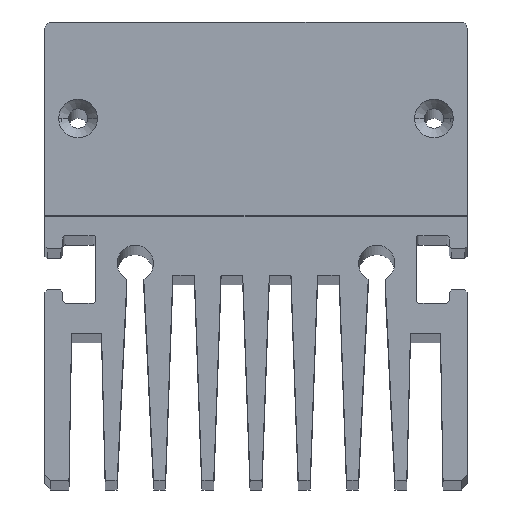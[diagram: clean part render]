
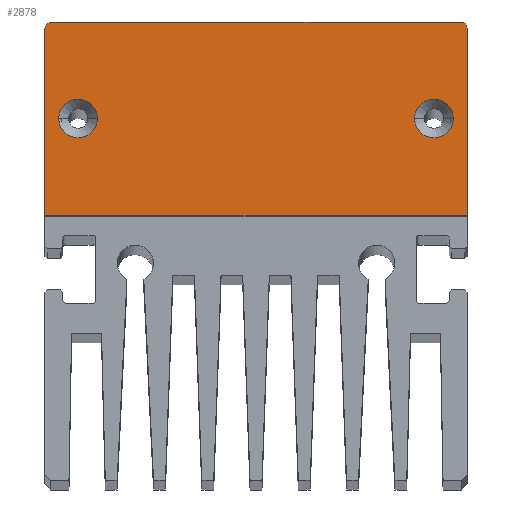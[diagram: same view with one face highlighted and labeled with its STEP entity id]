
A CAD part, top view. The second image highlights one B-rep face of the part: STEP entity #2878.
In plain terms, the highlighted planar face has unit normal (0, 0, 1).
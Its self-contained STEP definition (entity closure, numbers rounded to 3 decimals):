
#628=DIRECTION('',(1.,0.,0.));
#629=VECTOR('',#628,35.001);
#630=CARTESIAN_POINT('',(-17.5,2.8,227.));
#631=LINE('',#630,#629);
#632=CARTESIAN_POINT('',(-17.,18.3,227.));
#633=DIRECTION('',(0.,0.,1.));
#634=DIRECTION('',(0.,1.,0.));
#635=AXIS2_PLACEMENT_3D('',#632,#633,#634);
#637=CARTESIAN_POINT('',(17.497,18.3,227.));
#638=CARTESIAN_POINT('',(17.497,18.395,227.));
#639=CARTESIAN_POINT('',(17.449,18.558,227.));
#640=CARTESIAN_POINT('',(17.253,18.754,227.));
#641=CARTESIAN_POINT('',(17.092,18.8,227.));
#642=CARTESIAN_POINT('',(16.997,18.8,227.));
#644=CARTESIAN_POINT('',(14.75,10.8,227.));
#645=DIRECTION('',(0.,0.,-1.));
#646=DIRECTION('',(-1.,0.,0.));
#647=AXIS2_PLACEMENT_3D('',#644,#645,#646);
#649=CARTESIAN_POINT('',(14.75,10.8,227.));
#650=DIRECTION('',(0.,0.,-1.));
#651=DIRECTION('',(1.,0.,0.));
#652=AXIS2_PLACEMENT_3D('',#649,#650,#651);
#654=CARTESIAN_POINT('',(-14.75,10.8,227.));
#655=DIRECTION('',(0.,0.,-1.));
#656=DIRECTION('',(-1.,0.,0.));
#657=AXIS2_PLACEMENT_3D('',#654,#655,#656);
#659=CARTESIAN_POINT('',(-14.75,10.8,227.));
#660=DIRECTION('',(0.,0.,-1.));
#661=DIRECTION('',(1.,0.,0.));
#662=AXIS2_PLACEMENT_3D('',#659,#660,#661);
#704=DIRECTION('',(0.,-1.,0.));
#705=VECTOR('',#704,15.5);
#706=CARTESIAN_POINT('',(-17.5,18.3,227.));
#707=LINE('',#706,#705);
#1116=DIRECTION('',(0.,1.,0.));
#1117=VECTOR('',#1116,15.5);
#1118=CARTESIAN_POINT('',(17.501,2.8,227.));
#1119=LINE('',#1118,#1117);
#1664=DIRECTION('',(-1.,0.,0.));
#1665=VECTOR('',#1664,33.997);
#1666=CARTESIAN_POINT('',(16.997,18.8,227.));
#1667=LINE('',#1666,#1665);
#2262=CARTESIAN_POINT('',(-17.,18.8,227.));
#2263=CARTESIAN_POINT('',(-17.5,18.3,227.));
#2264=VERTEX_POINT('',#2262);
#2265=VERTEX_POINT('',#2263);
#2266=VERTEX_POINT('',#637);
#2267=VERTEX_POINT('',#642);
#2272=CARTESIAN_POINT('',(-17.5,2.8,227.));
#2273=CARTESIAN_POINT('',(17.501,2.8,227.));
#2274=VERTEX_POINT('',#2272);
#2275=VERTEX_POINT('',#2273);
#2414=CARTESIAN_POINT('',(13.15,10.8,227.));
#2415=CARTESIAN_POINT('',(16.35,10.8,227.));
#2416=VERTEX_POINT('',#2414);
#2417=VERTEX_POINT('',#2415);
#2422=CARTESIAN_POINT('',(-16.35,10.8,227.));
#2423=CARTESIAN_POINT('',(-13.15,10.8,227.));
#2424=VERTEX_POINT('',#2422);
#2425=VERTEX_POINT('',#2423);
#2848=CARTESIAN_POINT('',(0.,0.,227.));
#2849=DIRECTION('',(0.,0.,1.));
#2850=DIRECTION('',(1.,0.,0.));
#2851=AXIS2_PLACEMENT_3D('',#2848,#2849,#2850);
#2852=PLANE('',#2851);
#2854=ORIENTED_EDGE('',*,*,#2853,.F.);
#2856=ORIENTED_EDGE('',*,*,#2855,.F.);
#2858=ORIENTED_EDGE('',*,*,#2857,.F.);
#2860=ORIENTED_EDGE('',*,*,#2859,.F.);
#2862=ORIENTED_EDGE('',*,*,#2861,.F.);
#2864=ORIENTED_EDGE('',*,*,#2863,.F.);
#2865=EDGE_LOOP('',(#2854,#2856,#2858,#2860,#2862,#2864));
#2866=FACE_OUTER_BOUND('',#2865,.F.);
#2868=ORIENTED_EDGE('',*,*,#2867,.F.);
#2870=ORIENTED_EDGE('',*,*,#2869,.F.);
#2871=EDGE_LOOP('',(#2868,#2870));
#2872=FACE_BOUND('',#2871,.F.);
#2873=ORIENTED_EDGE('',*,*,#2690,.F.);
#2875=ORIENTED_EDGE('',*,*,#2874,.F.);
#2876=EDGE_LOOP('',(#2873,#2875));
#2877=FACE_BOUND('',#2876,.F.);
#636=CIRCLE('',#635,0.5);
#643=B_SPLINE_CURVE_WITH_KNOTS('',3,(#637,#638,#639,#640,#641,#642),
.UNSPECIFIED.,.F.,.F.,(4,1,1,4),(0.,0.333,0.667,1.),
.UNSPECIFIED.);
#648=CIRCLE('',#647,1.6);
#653=CIRCLE('',#652,1.6);
#658=CIRCLE('',#657,1.6);
#663=CIRCLE('',#662,1.6);
#2690=EDGE_CURVE('',#2424,#2425,#658,.T.);
#2853=EDGE_CURVE('',#2274,#2275,#631,.T.);
#2855=EDGE_CURVE('',#2265,#2274,#707,.T.);
#2857=EDGE_CURVE('',#2264,#2265,#636,.T.);
#2859=EDGE_CURVE('',#2267,#2264,#1667,.T.);
#2861=EDGE_CURVE('',#2266,#2267,#643,.T.);
#2863=EDGE_CURVE('',#2275,#2266,#1119,.T.);
#2867=EDGE_CURVE('',#2416,#2417,#648,.T.);
#2869=EDGE_CURVE('',#2417,#2416,#653,.T.);
#2874=EDGE_CURVE('',#2425,#2424,#663,.T.);
#2878=ADVANCED_FACE('',(#2866,#2872,#2877),#2852,.T.);
